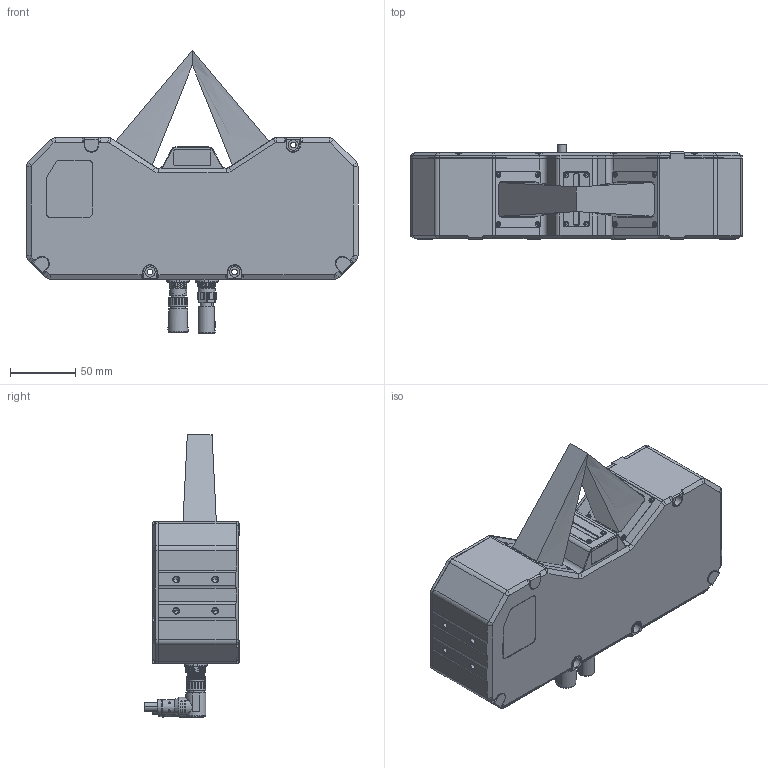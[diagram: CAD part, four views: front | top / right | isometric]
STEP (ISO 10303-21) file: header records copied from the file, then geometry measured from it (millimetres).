
FILE_DESCRIPTION((''),'2;1');
FILE_NAME('MV-DP3062-01D_ASM','2026-05-23T13:33:05',('wangjiayi28'),(''),'CREO PARAMETRIC BY PTC INC, 2020044','CREO PARAMETRIC BY PTC INC, 2020044','');
FILE_SCHEMA(('AUTOMOTIVE_DESIGN { 1 0 10303 214 1 1 1 1 }'));
Products named in the file (1): MV-DP3062-01D_ASM
Bounding box: 255 x 72.78 x 217.2 mm (x, y, z)
Surface area: 130509.6 mm2 (no closed solid volume)
Topology: 0 solids, 84 shells, 1391 faces, 4555 edges, 3189 vertices
Faces by surface type: plane 593, cylinder 432, cone 200, torus 104, bspline 62
Entity records: 85547 total; most frequent: CARTESIAN_POINT 46514, DIRECTION 7880, ORIENTED_EDGE 7668, EDGE_CURVE 4521, VERTEX_POINT 3189, AXIS2_PLACEMENT_3D 2835, VECTOR 2210, LINE 2210
